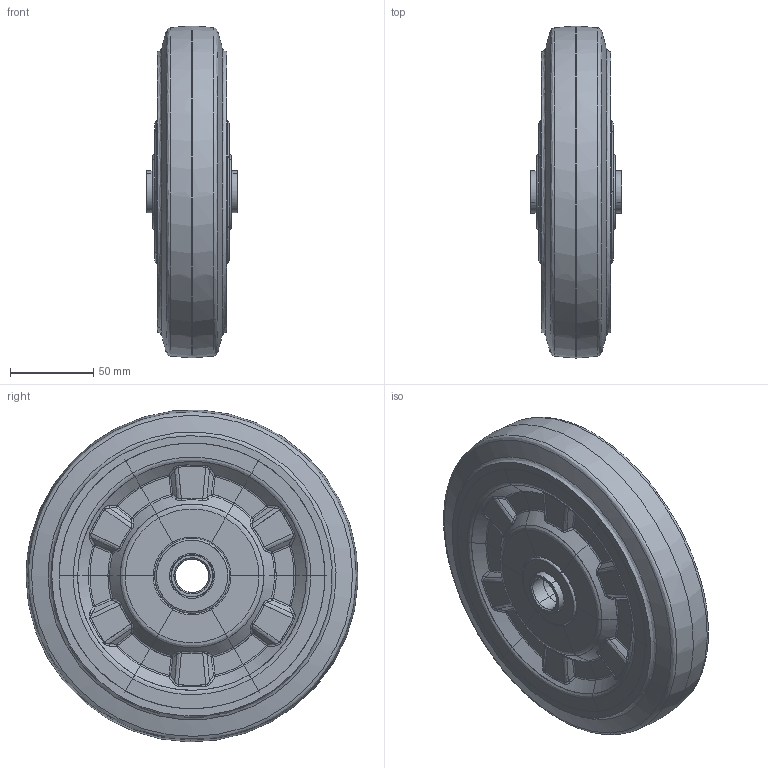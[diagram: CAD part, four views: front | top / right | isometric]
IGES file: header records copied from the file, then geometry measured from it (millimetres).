
Start section: JAMA-IS VERSION  1.0
Global section: file name: E:\tools-models\その他メーカー2\INOAC車輪\8月\GR-200W-ALL.igs; native system: CAM-TOOL; preprocessor: C3out Version 11.1.1.50212 (2015/02/12); author: NONE; organization: NONE; date: 220824.085039; units: millimetre
Bounding box: 55 x 199.93 x 199.83 mm (x, y, z)
Surface area: 251857.1 mm2 (no closed solid volume)
Topology: 0 solids, 0 shells, 1155 faces, 12015 edges, 12331 vertices
Faces by surface type: bspline 1155
